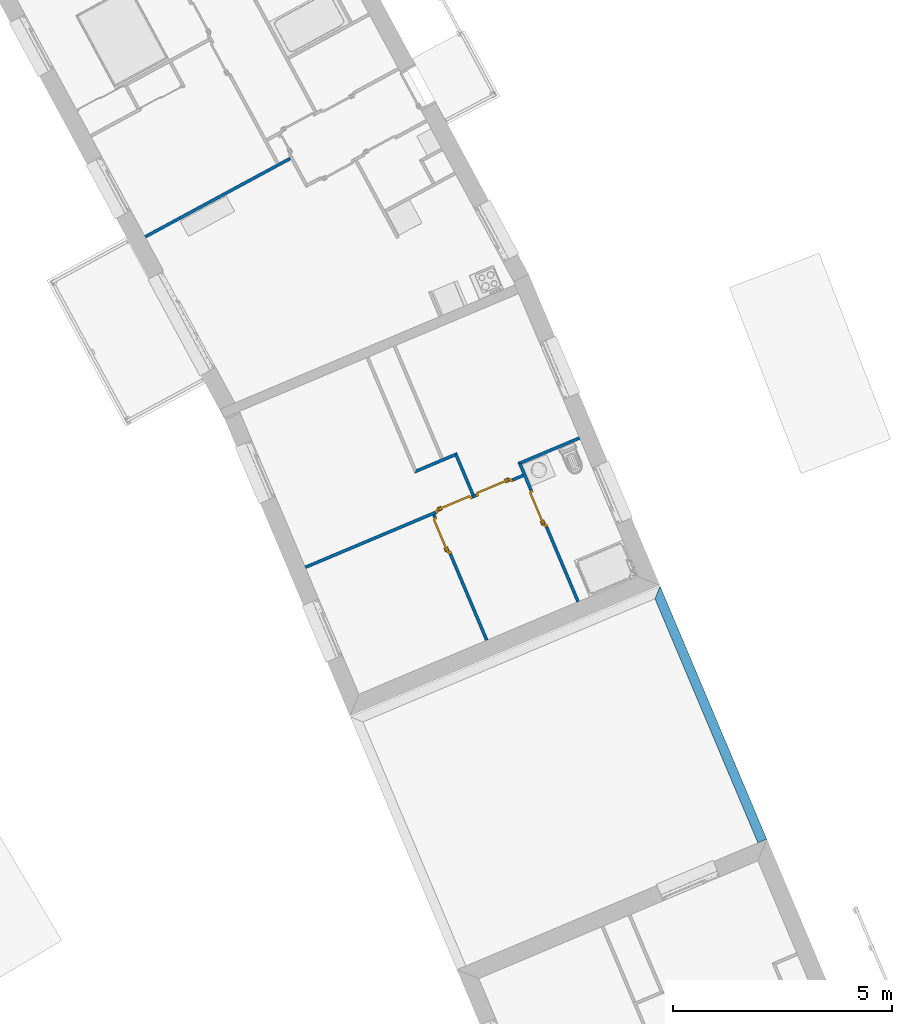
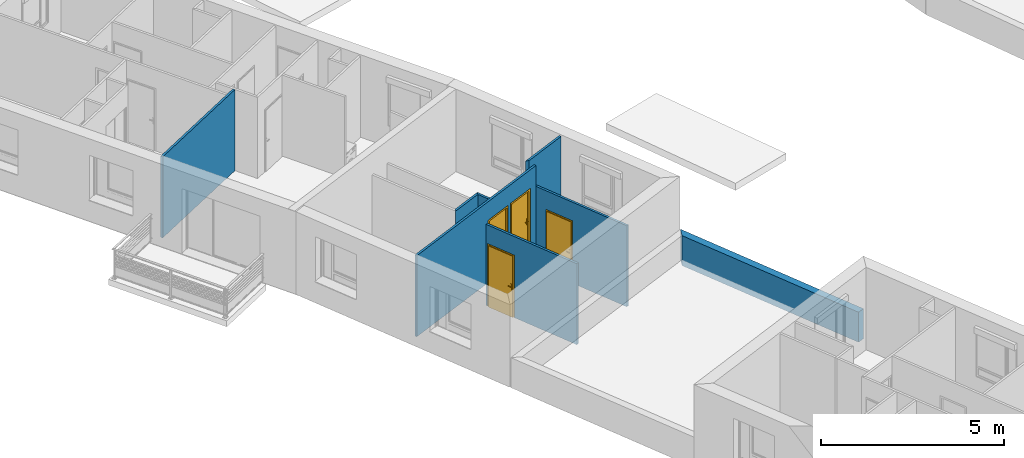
# One storey, part 50 of 121: 8 walls, 4 doors, 4 openings.
"""IFC2X3 building model written with IfcOpenShell, lengths in metres."""

from ifc_helpers import new_model, entity, si_unit, converted_unit, derived_unit, money_unit, direction, frame, origin_with_axes, origin_2d_with_axis, place, context, subcontext, project, spatial, polyline, rectangle, outline, extrude, faceted_brep, source, transform, mapped, material, layer, layer_set, layer_usage, type_object, element, fill, save


model = new_model("IFC2X3")

# Units and contexts
model_context = context("Model", 3, precision=1e-05, world=origin_with_axes(), true_north=direction((0.0, 1.0)))
body_context = subcontext(model_context, "Body", "Model", "MODEL_VIEW")
ifc_project = project(units=[si_unit("LENGTHUNIT", "METRE"), si_unit("AREAUNIT", "SQUARE_METRE"), si_unit("VOLUMEUNIT", "CUBIC_METRE"), converted_unit("PLANEANGLEUNIT", "DEGREE", entity("IfcPlaneAngleMeasure", 0.0174532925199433), si_unit("PLANEANGLEUNIT", "RADIAN"), dimensions=[0, 0, 0, 0, 0, 0, 0]), money_unit("CHF"), converted_unit("TIMEUNIT", "Year", entity("IfcTimeMeasure", 31557600.0), si_unit("TIMEUNIT", "SECOND"), dimensions=[0, 0, 1, 0, 0, 0, 0]), si_unit("MASSUNIT", "GRAM", prefix="KILO"), si_unit("THERMODYNAMICTEMPERATUREUNIT", "DEGREE_CELSIUS"), si_unit("LUMINOUSINTENSITYUNIT", "LUMEN"), si_unit("ENERGYUNIT", "JOULE", prefix="MEGA"), derived_unit("THERMALCONDUCTANCEUNIT", [(si_unit("POWERUNIT", "WATT"), 1), (si_unit("LENGTHUNIT", "METRE"), -1), (si_unit("THERMODYNAMICTEMPERATUREUNIT", "KELVIN"), -1)]), derived_unit("SPECIFICHEATCAPACITYUNIT", [(si_unit("ENERGYUNIT", "JOULE"), 1), (si_unit("MASSUNIT", "GRAM", prefix="KILO"), -1), (si_unit("THERMODYNAMICTEMPERATUREUNIT", "KELVIN"), -1)]), derived_unit("MASSDENSITYUNIT", [(si_unit("MASSUNIT", "GRAM", prefix="KILO"), 1), (si_unit("VOLUMEUNIT", "CUBIC_METRE"), -1)])], contexts=[model_context])

# Site, building, storey
site_placement = place(None, origin_with_axes())
site = spatial("IfcSite", under=ifc_project, at=site_placement, Name="Site", CompositionType="ELEMENT")
building_placement = place(site_placement, origin_with_axes())
building = spatial("IfcBuilding", under=site, at=building_placement, Name="Bâtiment", CompositionType="ELEMENT")
storey_placement = place(building_placement, frame((0.0, 0.0, 2.75), z_axis=(0.0, 0.0, 1.0), x_axis=(1.0, 0.0, 0.0)))
storey = spatial("IfcBuildingStorey", under=building, at=storey_placement, Name="Etage 1", CompositionType="ELEMENT", Elevation=2.75)

# Wall
ifc_material_1 = material(Name="Hachure solide 268963992")
ifc_layer_1 = layer(ifc_material_1, 0.07, ventilated="UNKNOWN")
ifc_layer_set_1 = layer_set([ifc_layer_1], Name="Cloison 70 0826278243")
ifc_layer_usage_1 = layer_usage(ifc_layer_set_1, "AXIS2", "POSITIVE", 0.0)
wall_type_1 = type_object("IfcWallType", Name="Cloison 70 0826278243 70", PredefinedType="NOTDEFINED")
wall_1_placement = place(storey_placement, frame((9567.132836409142, -1039.598060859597, 57.7), z_axis=(0.0, 0.0, 1.0), x_axis=(0.9214204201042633, 0.3885671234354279, 0.0)))
element("IfcWallStandardCase", 1, at=wall_1_placement, inside=storey, type_object=wall_type_1, material=ifc_layer_usage_1, Name="Mur-150", context=body_context, shape_type="SweptSolid", body=[
    extrude(outline(polyline([(0.07000000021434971, 0.0), (1.517035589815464, 0.0), (1.517035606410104, 0.06999999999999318), (1.680496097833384e-08, 0.06999999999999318), (0.07000000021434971, 0.0)])), origin_with_axes(), (0.0, 0.0, 1.0), 2.7),
])

# Wall, opening, door
ifc_layer_usage_2 = layer_usage(ifc_layer_set_1, "AXIS2", "NEGATIVE", 0.0)
wall_2_placement = place(storey_placement, frame((9565.225269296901, -1040.715611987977, 57.0), z_axis=(0.0, 0.0, 1.0), x_axis=(0.3885669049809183, -0.9214205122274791, 0.0)))
wall_2 = element("IfcWallStandardCase", 2, at=wall_2_placement, inside=storey, type_object=wall_type_1, material=ifc_layer_usage_2, Name="Mur-150", context=body_context, shape_type="SweptSolid", body=[
    extrude(outline(polyline([(1.62283413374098e-08, -0.07000000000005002), (3.105975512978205, -0.06999999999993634), (3.10597551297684, 0.0), (-3.528271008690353e-10, 0.0), (1.62283413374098e-08, -0.07000000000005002)])), origin_with_axes(), (0.0, 0.0, 1.0), 2.7),
])
opening_1_placement = place(wall_2_placement, frame((0.5100591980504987, 0.0, 0.0), z_axis=(0.0, 0.0, 1.0), x_axis=(1.0, 0.0, 0.0)))
opening_1 = element("IfcOpeningElement", 3, at=opening_1_placement, cuts=wall_2, Name="Por-302", context=body_context, shape_type="SweptSolid", body=[
    extrude(rectangle(XDim=0.9099999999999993, YDim=2.079999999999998, at=origin_2d_with_axis()), frame((0.0, 0.06999999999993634, 1.039999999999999), z_axis=(0.0, -1.0, 0.0), x_axis=(-1.0, 0.0, 0.0)), (0.0, 0.0, 1.0), 0.14),
])
door_style = type_object("IfcDoorStyle", Name="Porte_1v", ConstructionType="NOTDEFINED", OperationType="NOTDEFINED", ParameterTakesPrecedence=False, Sizeable=False)
shared_shape_1 = source(origin_with_axes(), body_context, "Body", "Brep", [
    faceted_brep([(0.455, 0.0, 0.0), (0.415, 0.0, 0.0), (0.415, 0.0, 2.04), (-0.415, 0.0, 2.04), (-0.415, 0.0, 0.0), (-0.455, 0.0, 0.0), (-0.455, 0.0, 2.08), (0.455, 0.0, 2.08), (0.455, -0.07, 0.0), (0.4, -0.07, 0.0), (0.4, -0.015, 0.0), (0.415, -0.015, 0.0), (0.415, -0.015, 2.04), (-0.415, -0.015, 2.04), (-0.415, -0.015, 0.0), (-0.4, -0.015, 0.0), (-0.4, -0.07, 0.0), (-0.455, -0.07, 0.0), (-0.455, -0.07, 2.08), (0.455, -0.07, 2.08), (-0.4, -0.07, 2.025), (0.4, -0.07, 2.025), (0.4, -0.015, 2.025), (-0.4, -0.015, 2.025)], [[[0, 1, 2, 3, 4, 5, 6, 7]], [[0, 8, 9, 10, 11, 1]], [[1, 11, 12, 2]], [[2, 12, 13, 3]], [[3, 13, 14, 4]], [[5, 4, 14, 15, 16, 17]], [[18, 6, 5, 17]], [[19, 7, 6, 18]], [[8, 0, 7, 19]], [[9, 8, 19, 18, 17, 16, 20, 21]], [[10, 9, 21, 22]], [[11, 10, 22, 23, 15, 14, 13, 12]], [[23, 20, 16, 15]], [[22, 21, 20, 23]]]),
    faceted_brep([(-0.35, -0.015, 0.9), (-0.39, -0.015, 0.9), (-0.39, -0.015, 1.1), (-0.35, -0.015, 1.1), (-0.35, -0.025, 0.9), (-0.39, -0.025, 0.9), (-0.39, -0.025, 1.1), (-0.35, -0.025, 1.1)], [[[0, 1, 2, 3]], [[1, 0, 4, 5]], [[2, 1, 5, 6]], [[3, 2, 6, 7]], [[0, 3, 7, 4]], [[5, 4, 7, 6]]]),
    faceted_brep([(-0.28, -0.025, 1.0), (-0.38, -0.025, 1.0), (-0.38, -0.025, 1.02), (-0.28, -0.025, 1.02), (-0.28, -0.045, 1.0), (-0.38, -0.045, 1.0), (-0.38, -0.045, 1.02), (-0.28, -0.045, 1.02)], [[[0, 1, 2, 3]], [[1, 0, 4, 5]], [[2, 1, 5, 6]], [[3, 2, 6, 7]], [[0, 3, 7, 4]], [[5, 4, 7, 6]]]),
    faceted_brep([(-0.35, 0.035, 0.9), (-0.39, 0.035, 0.9), (-0.39, 0.035, 1.1), (-0.35, 0.035, 1.1), (-0.35, 0.025, 0.9), (-0.39, 0.025, 0.9), (-0.39, 0.025, 1.1), (-0.35, 0.025, 1.1)], [[[0, 1, 2, 3]], [[1, 0, 4, 5]], [[2, 1, 5, 6]], [[3, 2, 6, 7]], [[0, 3, 7, 4]], [[5, 4, 7, 6]]]),
    faceted_brep([(-0.28, 0.05500000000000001, 1.0), (-0.38, 0.05500000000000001, 1.0), (-0.38, 0.05500000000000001, 1.02), (-0.28, 0.05500000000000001, 1.02), (-0.28, 0.035, 1.0), (-0.38, 0.035, 1.0), (-0.38, 0.035, 1.02), (-0.28, 0.035, 1.02)], [[[0, 1, 2, 3]], [[1, 0, 4, 5]], [[2, 1, 5, 6]], [[3, 2, 6, 7]], [[0, 3, 7, 4]], [[5, 4, 7, 6]]]),
    faceted_brep([(-0.415, 0.025, 0.0), (0.415, 0.025, 0.0), (0.415, -0.015, 0.0), (-0.415, -0.015, 0.0), (-0.415, 0.025, 2.04), (0.415, 0.025, 2.04), (0.415, -0.015, 2.04), (-0.415, -0.015, 2.04)], [[[0, 1, 2, 3]], [[0, 4, 5, 1]], [[1, 5, 6, 2]], [[3, 2, 6, 7]], [[4, 0, 3, 7]], [[5, 4, 7, 6]]]),
])
door_1_placement = place(opening_1_placement, frame((0.4149999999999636, 0.0, 0.0), z_axis=(0.0, 0.0, 1.0), x_axis=(-1.0, 0.0, 0.0)))
door_1 = element("IfcDoor", 4, at=door_1_placement, inside=storey, type_object=door_style, Name="Por-302", OverallHeight=2.04, OverallWidth=0.83, context=body_context, shape_type="MappedRepresentation", body=[
    mapped(shared_shape_1, transform((0.4150000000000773, 0.07000000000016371, 0.0))),
])
fill(opening_1, door_1)

# Wall, openings, doors
ifc_layer_usage_3 = layer_usage(ifc_layer_set_1, "AXIS2", "POSITIVE", 0.0)
wall_3_placement = place(storey_placement, frame((9561.925696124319, -1042.107056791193, 57.7), z_axis=(0.0, 0.0, 1.0), x_axis=(0.9214204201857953, 0.3885671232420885, 0.0)))
wall_3 = element("IfcWallStandardCase", 5, at=wall_3_placement, inside=storey, type_object=wall_type_1, material=ifc_layer_usage_3, Name="Mur-150", context=body_context, shape_type="SweptSolid", body=[
    extrude(outline(polyline([(0.3799999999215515, 0.0), (5.772878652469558, 0.0), (5.772878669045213, 0.07000000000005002), (0.380000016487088, 0.07000000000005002), (0.3799999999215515, 0.0)])), origin_with_axes(), (0.0, 0.0, 1.0), 2.7),
])
opening_2_placement = place(wall_3_placement, frame((5.060350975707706, 0.0, 0.0), z_axis=(0.0, 0.0, 1.0), x_axis=(1.0, 0.0, 0.0)))
opening_2 = element("IfcOpeningElement", 6, at=opening_2_placement, cuts=wall_3, Name="Por-304", context=body_context, shape_type="SweptSolid", body=[
    extrude(rectangle(XDim=0.9099999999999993, YDim=2.079999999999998, at=origin_2d_with_axis()), frame((0.0, -0.06999999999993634, 1.039999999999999), z_axis=(0.0, -1.0, 0.0), x_axis=(-1.0, 0.0, 0.0)), (0.0, 0.0, -1.0), 0.14),
])
opening_3_placement = place(wall_3_placement, frame((4.055963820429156, 0.0, 0.0), z_axis=(0.0, 0.0, 1.0), x_axis=(1.0, 0.0, 0.0)))
opening_3 = element("IfcOpeningElement", 7, at=opening_3_placement, cuts=wall_3, Name="Por-304", context=body_context, shape_type="SweptSolid", body=[
    extrude(rectangle(XDim=0.9099999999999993, YDim=2.079999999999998, at=origin_2d_with_axis()), frame((0.0, -0.06999999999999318, 1.039999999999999), z_axis=(0.0, 1.0, 0.0), x_axis=(1.0, 0.0, 0.0)), (0.0, 0.0, 1.0), 0.14),
])
door_2_placement = place(opening_3_placement, frame((-0.4150000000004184, 0.0, 0.0), z_axis=(0.0, 0.0, 1.0), x_axis=(1.0, 0.0, 0.0)))
door_2 = element("IfcDoor", 8, at=door_2_placement, inside=storey, type_object=door_style, Name="Por-304", OverallHeight=2.04, OverallWidth=0.83, context=body_context, shape_type="MappedRepresentation", body=[
    mapped(shared_shape_1, transform((0.4149999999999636, 0.06999999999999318, 0.0))),
])
fill(opening_3, door_2)
shared_shape_2 = source(origin_with_axes(), body_context, "Body", "Brep", [
    faceted_brep([(-0.455, 0.0, 0.0), (-0.455, 0.0, 2.08), (0.455, 0.0, 2.08), (0.455, 0.0, 0.0), (0.415, 0.0, 0.0), (0.415, 0.0, 2.04), (-0.415, 0.0, 2.04), (-0.415, 0.0, 0.0), (-0.455, -0.07, 0.0), (-0.455, -0.07, 2.08), (0.455, -0.07, 2.08), (0.455, -0.07, 0.0), (0.4, -0.07, 0.0), (0.4, -0.015, 0.0), (0.415, -0.015, 0.0), (0.415, -0.015, 2.04), (-0.415, -0.015, 2.04), (-0.415, -0.015, 0.0), (-0.4, -0.015, 0.0), (-0.4, -0.07, 0.0), (-0.4, -0.07, 2.025), (0.4, -0.07, 2.025), (0.4, -0.015, 2.025), (-0.4, -0.015, 2.025)], [[[0, 1, 2, 3, 4, 5, 6, 7]], [[8, 9, 1, 0]], [[9, 10, 2, 1]], [[10, 11, 3, 2]], [[3, 11, 12, 13, 14, 4]], [[5, 4, 14, 15]], [[6, 5, 15, 16]], [[7, 6, 16, 17]], [[0, 7, 17, 18, 19, 8]], [[19, 20, 21, 12, 11, 10, 9, 8]], [[22, 13, 12, 21]], [[17, 16, 15, 14, 13, 22, 23, 18]], [[18, 23, 20, 19]], [[23, 22, 21, 20]]]),
    faceted_brep([(0.35, -0.015, 0.9), (0.35, -0.015, 1.1), (0.39, -0.015, 1.1), (0.39, -0.015, 0.9), (0.35, -0.025, 0.9), (0.35, -0.025, 1.1), (0.39, -0.025, 1.1), (0.39, -0.025, 0.9)], [[[0, 1, 2, 3]], [[0, 4, 5, 1]], [[1, 5, 6, 2]], [[2, 6, 7, 3]], [[3, 7, 4, 0]], [[7, 6, 5, 4]]]),
    faceted_brep([(0.28, -0.025, 1.0), (0.28, -0.025, 1.02), (0.38, -0.025, 1.02), (0.38, -0.025, 1.0), (0.28, -0.045, 1.0), (0.28, -0.045, 1.02), (0.38, -0.045, 1.02), (0.38, -0.045, 1.0)], [[[0, 1, 2, 3]], [[0, 4, 5, 1]], [[1, 5, 6, 2]], [[2, 6, 7, 3]], [[3, 7, 4, 0]], [[7, 6, 5, 4]]]),
    faceted_brep([(0.35, 0.035, 0.9), (0.35, 0.035, 1.1), (0.39, 0.035, 1.1), (0.39, 0.035, 0.9), (0.35, 0.025, 0.9), (0.35, 0.025, 1.1), (0.39, 0.025, 1.1), (0.39, 0.025, 0.9)], [[[0, 1, 2, 3]], [[0, 4, 5, 1]], [[1, 5, 6, 2]], [[2, 6, 7, 3]], [[3, 7, 4, 0]], [[7, 6, 5, 4]]]),
    faceted_brep([(0.28, 0.05500000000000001, 1.0), (0.28, 0.05500000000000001, 1.02), (0.38, 0.05500000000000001, 1.02), (0.38, 0.05500000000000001, 1.0), (0.28, 0.035, 1.0), (0.28, 0.035, 1.02), (0.38, 0.035, 1.02), (0.38, 0.035, 1.0)], [[[0, 1, 2, 3]], [[0, 4, 5, 1]], [[1, 5, 6, 2]], [[2, 6, 7, 3]], [[3, 7, 4, 0]], [[7, 6, 5, 4]]]),
    faceted_brep([(0.415, 0.025, 0.0), (0.415, -0.015, 0.0), (-0.415, -0.015, 0.0), (-0.415, 0.025, 0.0), (0.415, 0.025, 2.04), (0.415, -0.015, 2.04), (-0.415, -0.015, 2.04), (-0.415, 0.025, 2.04)], [[[0, 1, 2, 3]], [[4, 5, 1, 0]], [[1, 5, 6, 2]], [[3, 2, 6, 7]], [[0, 3, 7, 4]], [[7, 6, 5, 4]]]),
])
door_3_placement = place(opening_2_placement, frame((-0.4150000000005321, 0.0, 0.0), z_axis=(0.0, 0.0, 1.0), x_axis=(1.0, 0.0, 0.0)))
door_3 = element("IfcDoor", 9, at=door_3_placement, inside=storey, type_object=door_style, Name="Por-304", OverallHeight=2.04, OverallWidth=0.83, context=body_context, shape_type="MappedRepresentation", body=[
    mapped(shared_shape_2, transform((0.4149999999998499, 0.07000000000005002, 0.0))),
])
fill(opening_2, door_3)

# Walls
ifc_layer_usage_4 = layer_usage(ifc_layer_set_1, "AXIS2", "NEGATIVE", 0.0)
wall_4_placement = place(storey_placement, frame((9565.742696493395, -1039.369043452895, 57.0), z_axis=(0.0, 0.0, 1.0), x_axis=(-0.9214205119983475, -0.3885669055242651, 0.0)))
element("IfcWallStandardCase", 10, at=wall_4_placement, inside=storey, type_object=wall_type_1, material=ifc_layer_usage_4, Name="Mur-150", context=body_context, shape_type="SweptSolid", body=[
    extrude(outline(polyline([(0.0, -0.06999999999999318), (1.0000000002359, -0.06999999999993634), (1.07000000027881, 0.0), (0.06999999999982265, 0.0), (0.0, -0.06999999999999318)])), origin_with_axes(), (0.0, 0.0, 1.0), 2.7),
])
ifc_layer_usage_5 = layer_usage(ifc_layer_set_1, "AXIS2", "NEGATIVE", 0.0)
wall_5_placement = place(storey_placement, frame((9565.742696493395, -1039.369043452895, 57.0), z_axis=(0.0, 0.0, 1.0), x_axis=(0.3885669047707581, -0.9214205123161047, 0.0)))
element("IfcWallStandardCase", 11, at=wall_5_placement, inside=storey, type_object=wall_type_1, material=ifc_layer_usage_5, Name="Mur-150", context=body_context, shape_type="SweptSolid", body=[
    extrude(outline(polyline([(0.0, -0.06999999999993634), (0.9697005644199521, -0.06999999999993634), (0.9697005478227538, 0.0), (-0.06999999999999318, 0.0), (0.0, -0.06999999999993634)])), origin_with_axes(), (0.0, 0.0, 1.0), 2.7),
])

# Wall, opening, door
ifc_layer_usage_6 = layer_usage(ifc_layer_set_1, "AXIS2", "POSITIVE", 0.0)
wall_6_placement = place(storey_placement, frame((9567.132836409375, -1039.598060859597, 57.0), z_axis=(0.0, 0.0, 1.0), x_axis=(0.3885669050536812, -0.9214205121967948, 0.0)))
wall_6 = element("IfcWallStandardCase", 12, at=wall_6_placement, inside=storey, type_object=wall_type_1, material=ifc_layer_usage_6, Name="Mur-150", context=body_context, shape_type="SweptSolid", body=[
    extrude(outline(polyline([(-0.07000000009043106, 0.0), (3.39449259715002, 0.0), (3.394492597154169, 0.07000000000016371), (-1.668092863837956e-08, 0.07000000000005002), (-0.07000000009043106, 0.0)])), origin_with_axes(), (0.0, 0.0, 1.0), 2.7),
])
opening_4_placement = place(wall_6_placement, frame((1.085641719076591, 0.0, 0.0), z_axis=(0.0, 0.0, 1.0), x_axis=(1.0, 0.0, 0.0)))
opening_4 = element("IfcOpeningElement", 13, at=opening_4_placement, cuts=wall_6, Name="Por-303", context=body_context, shape_type="SweptSolid", body=[
    extrude(rectangle(XDim=0.9099999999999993, YDim=2.079999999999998, at=origin_2d_with_axis()), frame((0.0, 0.07000000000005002, 1.039999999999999), z_axis=(0.0, -1.0, 0.0), x_axis=(-1.0, 0.0, 0.0)), (0.0, 0.0, 1.0), 0.14),
])
door_4_placement = place(opening_4_placement, frame((0.4150000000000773, 0.0, 0.0), z_axis=(0.0, 0.0, 1.0), x_axis=(-1.0, 0.0, 0.0)))
door_4 = element("IfcDoor", 14, at=door_4_placement, inside=storey, type_object=door_style, Name="Por-303", OverallHeight=2.04, OverallWidth=0.83, context=body_context, shape_type="MappedRepresentation", body=[
    mapped(shared_shape_1, transform((0.4150000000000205, 0.0, 0.0))),
])
fill(opening_4, door_4)

# Walls
ifc_layer_usage_7 = layer_usage(ifc_layer_set_1, "AXIS2", "POSITIVE", 0.0)
wall_7_placement = place(storey_placement, frame((9561.899256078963, -1032.568301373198, 57.7), z_axis=(0.0, 0.0, 1.0), x_axis=(-0.8798137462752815, -0.475318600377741, 0.0)))
element("IfcWallStandardCase", 15, at=wall_7_placement, inside=storey, type_object=wall_type_1, material=ifc_layer_usage_7, Name="Mur-149", context=body_context, shape_type="SweptSolid", body=[
    extrude(outline(polyline([(-4.941966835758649e-10, 0.0), (3.761145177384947, 0.0), (3.761145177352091, 0.07000000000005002), (-5.168203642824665e-10, 0.07000000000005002), (-4.941966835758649e-10, 0.0)])), origin_with_axes(), (0.0, 0.0, 1.0), 2.7),
])
ifc_material_2 = material(Name="Empty Fill 3000033799")
ifc_layer_2 = layer(ifc_material_2, 0.22, ventilated="UNKNOWN")
ifc_layer_set_2 = layer_set([ifc_layer_2], Name="acrotère 22")
ifc_layer_usage_8 = layer_usage(ifc_layer_set_2, "AXIS2", "POSITIVE", 0.0)
wall_type_2 = type_object("IfcWallType", Name="acrotère 22 220", PredefinedType="NOTDEFINED")
wall_8_placement = place(storey_placement, frame((9572.789102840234, -1048.128803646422, 57.7), z_axis=(0.0, 0.0, 1.0), x_axis=(-0.3885669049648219, 0.9214205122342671, 0.0)))
element("IfcWallStandardCase", 16, at=wall_8_placement, inside=storey, type_object=wall_type_2, material=ifc_layer_usage_8, Name="Mur-110", context=body_context, shape_type="SweptSolid", body=[
    extrude(outline(polyline([(-1.472726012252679e-07, 0.0), (6.263746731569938, 0.0), (6.043746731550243, 0.2199999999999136), (-1.473350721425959e-07, 0.2199999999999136), (-1.472726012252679e-07, 0.0)])), origin_with_axes(), (0.0, 0.0, 1.0), 1.0),
])

save(model, "model.ifc")
